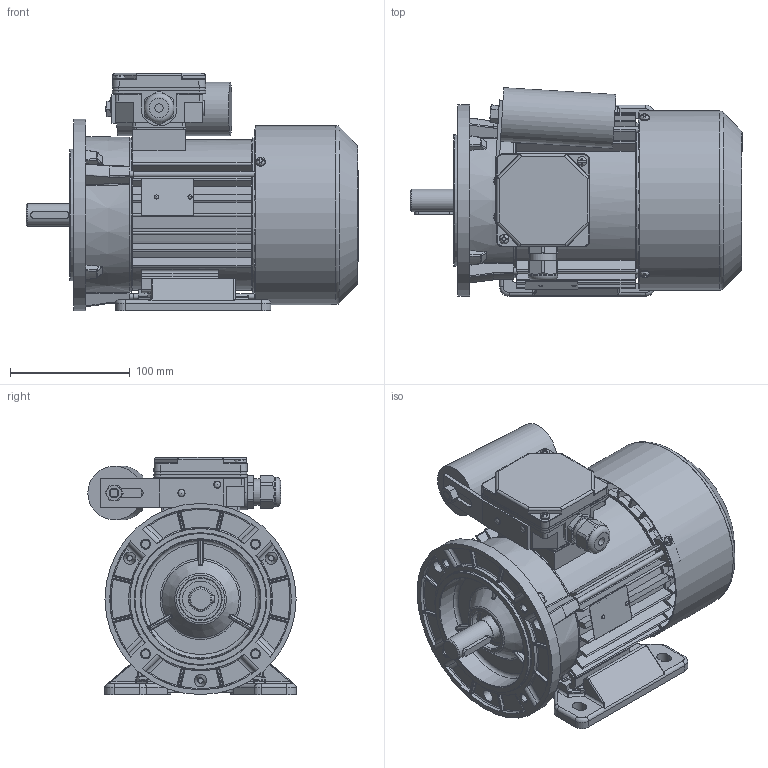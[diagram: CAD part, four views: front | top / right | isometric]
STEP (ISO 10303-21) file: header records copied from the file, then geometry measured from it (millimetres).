
FILE_DESCRIPTION( ( 'Unknown' ), '1' );
FILE_NAME( 'G:/Poczta Tk-1/STP/w.m.80/SEh80/SELh80-.B1.stp', 'Unknown', ( 'K. Szlosek' ), ( 'BESEL S.A.' ), 'PSStep 17.0.49', 'Unknown', ' ' );
FILE_SCHEMA( ( 'AUTOMOTIVE_DESIGN { 1 0 10303 214 1 1 1 1 }' ) );
Length unit declared in the file: millimetre
Products named in the file (34): Assem1; K1-1257 Kadłub S(E,M)h80-A i B; Kondensator zb 25-31,5uF Comar; K3-2964 Osłona przewietrznika Sh80,90; K2-0860 Pokrywka skrzynki zaciskowej; K4-2320 Uszczelka nr 1 Sh71,80; K3-4616 wał standard Sh80-B; K3-6857 Tarcza łożyskowa P S(E,M)h80-B,D; Wkręt samogwintujący M4x8; Wpust A6x6x32; K2-1131 Podstawa skrzynki zaciskowej jednofazowa; K4-2820 Uszczelka nr 2 Sh71,80; Wkręt samogwintujący M4x16; K4-0898 Tulejka uszczelniająca; nakrętka M8; Nit 4x12 po skróceniu; Nitokołek A 2x6; K3-4025 Przewietrznik Sg,h80; K4-2999 Uchwyt kondensatora; Dławnica M20x1,5; Tabliczka znamionowa 32x44; Łożysko 6204; Śruba ściągająca E_M5x130; K1-1259 Tarcza kołnierzowa 80 B14_1 ; K1-0437 Łapa Sh80-.. 
Assembly tree (50 placements, depth 2):
  Assem1
    K1-1257 Kadłub S(E,M)h80-A i B
    Kondensator zb 25-31,5uF Comar
    K3-2964 Osłona przewietrznika Sh80,90
    K2-0860 Pokrywka skrzynki zaciskowej
    K4-2320 Uszczelka nr 1 Sh71,80
    K3-4616 wał standard Sh80-B
    K3-6857 Tarcza łożyskowa P S(E,M)h80-B,D
    Wkręt samogwintujący M4x8  x3
    Wpust A6x6x32
    K2-1131 Podstawa skrzynki zaciskowej jednofazowa
    K4-2820 Uszczelka nr 2 Sh71,80
    Wkręt samogwintujący M4x16  x2
    K4-0898 Tulejka uszczelniająca
    nakrętka M8
    Nit 4x12 po skróceniu  x2
    Nitokołek A 2x6  x2
    K3-4025 Przewietrznik Sg,h80
    K4-2999 Uchwyt kondensatora
    Dławnica M20x1,5
    Tabliczka znamionowa 32x44
    Łożysko 6204  x2
    Łożysko 6204  x2
    Łożysko 6204  x2
    Łożysko 6204  x2
    Łożysko 6204  x2
    Łożysko 6204  x2
    Łożysko 6204  x2
    Łożysko 6204  x2
    Łożysko 6204  x2
    Łożysko 6204  x2
    Śruba ściągająca E_M5x130  x3
    K1-1259 Tarcza kołnierzowa 80 B14_1 
    K1-0437 Łapa Sh80-.. 
Bounding box: 277.8 x 174.3 x 198.5 mm (x, y, z)
Volume: 1215439.5 mm3; surface area: 607745 mm2
Topology: 50 solids, 66 shells, 3214 faces, 8600 edges, 5498 vertices
Faces by surface type: plane 1395, cylinder 957, bspline 375, torus 246, cone 195, sphere 46
Full cylindrical faces by diameter (mm): 2 x2, 2.4 x2, 3 x1, 3.7 x11, 4 x8, 4.2 x3, 4.3 x2, 4.5 x3, 4.6 x3, 4.8 x4, 5 x7, 5.5 x3, 6 x2, 6.5 x5, 6.647 x1, 6.8 x4, 7 x1, 8 x10, 10 x2, 18.376 x1, 18.38 x1, 19 x1, 19.3 x1, 19.5 x1, 19.9 x1, 20 x3, 20.3 x2, 20.4 x4, 22.3 x1, 25 x1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
Entity records: 187338 total; most frequent: CARTESIAN_POINT 89496, ORIENTED_EDGE 15636, DIRECTION 14510, EDGE_CURVE 7818, AXIS2_PLACEMENT_3D 5452, VERTEX_POINT 5146, LINE 3606, VECTOR 3606
